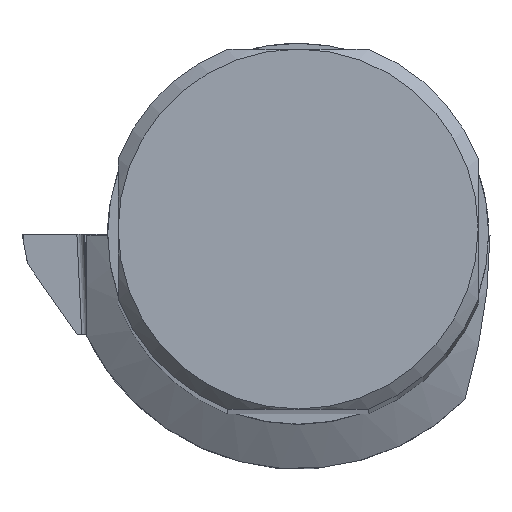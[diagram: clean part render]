
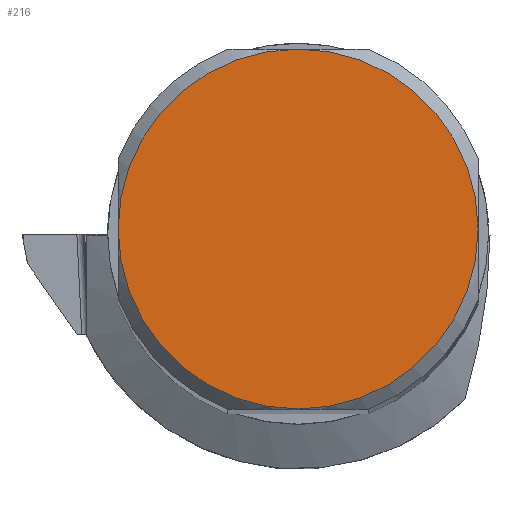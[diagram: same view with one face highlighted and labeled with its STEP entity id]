
A CAD part, top view. The second image highlights one B-rep face of the part: STEP entity #216.
In plain terms, the highlighted planar face has unit normal (0, 0, 1).
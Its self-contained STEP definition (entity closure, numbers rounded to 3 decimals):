
#97=PLANE('',#2947);
#216=ADVANCED_FACE('',(#429),#97,.T.);
#429=FACE_OUTER_BOUND('',#569,.T.);
#569=EDGE_LOOP('',(#784,#785,#786,#787));
#784=ORIENTED_EDGE('',*,*,#1858,.T.);
#785=ORIENTED_EDGE('',*,*,#1831,.T.);
#786=ORIENTED_EDGE('',*,*,#1849,.T.);
#787=ORIENTED_EDGE('',*,*,#1841,.T.);
#1550=VERTEX_POINT('',#4130);
#1552=VERTEX_POINT('',#4137);
#1558=VERTEX_POINT('',#4157);
#1560=VERTEX_POINT('',#4164);
#1831=EDGE_CURVE('',#1550,#1552,#2258,.T.);
#1841=EDGE_CURVE('',#1558,#1560,#2262,.T.);
#1849=EDGE_CURVE('',#1552,#1558,#2265,.T.);
#1858=EDGE_CURVE('',#1560,#1550,#2269,.T.);
#2258=CIRCLE('',#2926,20.69);
#2262=CIRCLE('',#2933,20.69);
#2265=CIRCLE('',#2939,20.69);
#2269=CIRCLE('',#2946,20.69);
#2926=AXIS2_PLACEMENT_3D('',#4138,#3262,#3263);
#2933=AXIS2_PLACEMENT_3D('',#4165,#3280,#3281);
#2939=AXIS2_PLACEMENT_3D('',#4184,#3296,#3297);
#2946=AXIS2_PLACEMENT_3D('',#4204,#3314,#3315);
#2947=AXIS2_PLACEMENT_3D('',#4205,#3316,#3317);
#3262=DIRECTION('',(0.,0.,1.));
#3263=DIRECTION('',(0.,-1.,0.));
#3280=DIRECTION('',(0.,0.,1.));
#3281=DIRECTION('',(0.,-1.,0.));
#3296=DIRECTION('',(0.,0.,1.));
#3297=DIRECTION('',(0.,-1.,0.));
#3314=DIRECTION('',(0.,0.,1.));
#3315=DIRECTION('',(0.,-1.,0.));
#3316=DIRECTION('',(0.,0.,1.));
#3317=DIRECTION('',(0.,-1.,0.));
#4130=CARTESIAN_POINT('',(20.69,0.,0.));
#4137=CARTESIAN_POINT('',(0.,20.69,0.));
#4138=CARTESIAN_POINT('',(0.,0.,0.));
#4157=CARTESIAN_POINT('',(-20.69,0.,0.));
#4164=CARTESIAN_POINT('',(0.,-20.69,0.));
#4165=CARTESIAN_POINT('',(0.,0.,0.));
#4184=CARTESIAN_POINT('',(0.,0.,0.));
#4204=CARTESIAN_POINT('',(0.,0.,0.));
#4205=CARTESIAN_POINT('',(0.,0.,0.));
